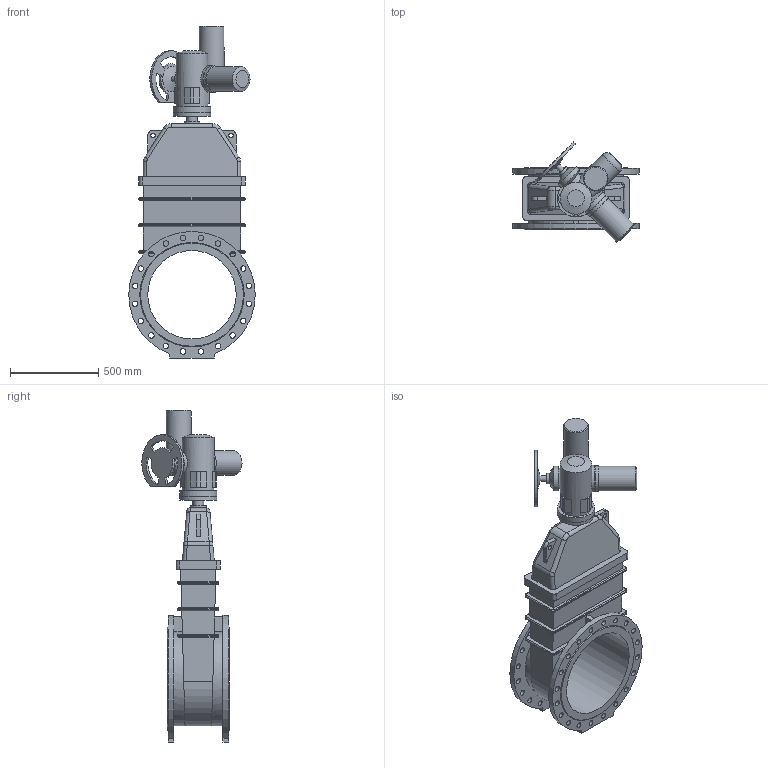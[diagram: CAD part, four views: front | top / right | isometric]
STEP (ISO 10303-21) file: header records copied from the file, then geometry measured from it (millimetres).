
FILE_DESCRIPTION(('STEP AP203'), '1');
FILE_NAME('青溻桄赅 47GVA DN500 PN16+MT903.A45', '', ('UNSPECIFIED'), ('UNSPECIFIED'), 'ASCON STEP Converter 1.6', 'ASCON Math Kernel', '');
FILE_SCHEMA(('CONFIG_CONTROL_DESIGN'));
Length unit declared in the file: millimetre
Bounding box: 714.99 x 565.84 x 1876.5 mm (x, y, z)
Volume: 118229984.2 mm3; surface area: 4252926 mm2
Topology: 2 solids, 3 shells, 366 faces, 898 edges, 569 vertices
Faces by surface type: cylinder 167, plane 151, bspline 32, cone 15, torus 1
Full cylindrical faces by diameter (mm): 14 x4, 17 x4, 17.294 x4, 22 x4, 25 x2, 31 x40, 32 x1, 40 x1, 60 x2, 90 x1, 100 x1, 130 x2, 140 x4, 147 x1, 151 x1, 180 x1, 210 x2, 500 x1
Entity records: 17193 total; most frequent: CARTESIAN_POINT 5946, DIRECTION 1661, ORIENTED_EDGE 1606, EDGE_CURVE 803, AXIS2_PLACEMENT_3D 647, EDGE_LOOP 588, VERTEX_POINT 565, FACE_BOUND 421
